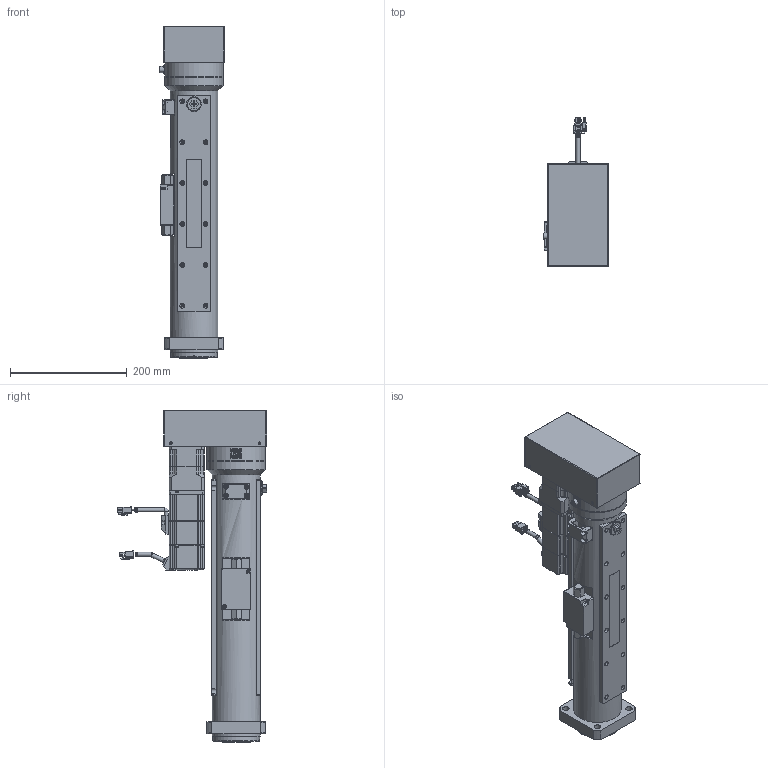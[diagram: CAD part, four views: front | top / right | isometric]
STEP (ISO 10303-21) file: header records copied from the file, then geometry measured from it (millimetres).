
FILE_DESCRIPTION( ('This file contains a STEP AP42 implementation' ,'as created by ZW3D STEP Interface translator.') ,'2;1' );
FILE_NAME( 'OACIS-DC-P003-300-250-A6_V20.01.stp' ,'25 3 8. 9 413', (''), ('ZWCAD Software Co.'), 'Version 1.0', 'ZW3D to STEP translator', '' );
FILE_SCHEMA(('AUTOMOTIVE_DESIGN { 1 0 10303 214 1 1 1 1 }'));
Length unit declared in the file: millimetre
Products named in the file (2): 0; OACIS-DC-P003-300-250-A6_V20.01
Bounding box: 110.7 x 255.3 x 568.5 mm (x, y, z)
Volume: 3372153.6 mm3; surface area: 774464.5 mm2
Topology: 17 solids, 31 shells, 1887 faces, 4862 edges, 3170 vertices
Faces by surface type: plane 960, cylinder 618, cone 201, torus 65, bspline 26, sphere 17
Full cylindrical faces by diameter (mm): 1 x17, 1.567 x4, 1.754 x3, 1.755 x1, 1.82 x4, 2 x5, 2.2 x4, 2.5 x8, 2.6 x12, 3.2 x4, 3.3 x82, 4.134 x1, 4.2 x24, 4.3 x22, 4.5 x16, 4.917 x4, 5 x26, 5.5 x8, 6 x4, 6.5 x10, 6.6 x6, 7 x6, 7.2 x1, 8 x26, 8.5 x1, 9 x4, 10.5 x1, 11 x4, 14 x1, 16.5 x1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
Entity records: 61950 total; most frequent: CARTESIAN_POINT 12773, DIRECTION 10021, ORIENTED_EDGE 9556, EDGE_CURVE 4788, AXIS2_PLACEMENT_3D 3592, VERTEX_POINT 3170, VECTOR 2837, LINE 2837
